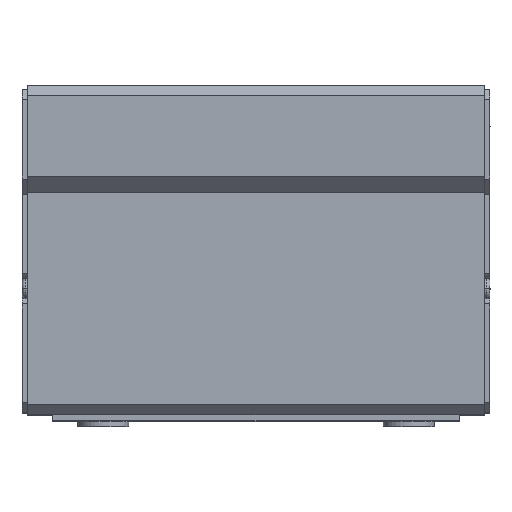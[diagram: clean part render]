
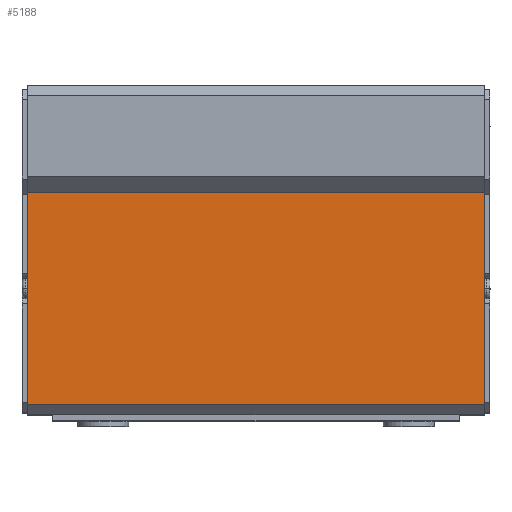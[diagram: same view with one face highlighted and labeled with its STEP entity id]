
A CAD part, top view. The second image highlights one B-rep face of the part: STEP entity #5188.
In plain terms, the highlighted planar face has unit normal (0, 0, 1).
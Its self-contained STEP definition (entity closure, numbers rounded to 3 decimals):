
#37 = EDGE_CURVE ( 'NONE', #302, #2241, #7198, .T. ) ;
#149 = FACE_OUTER_BOUND ( 'NONE', #8230, .T. ) ;
#174 = VERTEX_POINT ( 'NONE', #2021 ) ;
#181 = VECTOR ( 'NONE', #4665, 1000. ) ;
#302 = VERTEX_POINT ( 'NONE', #7795 ) ;
#631 = DIRECTION ( 'NONE',  ( -1., 0., 0. ) ) ;
#810 = CARTESIAN_POINT ( 'NONE',  ( 22.5, 9.5, 21. ) ) ;
#855 = CARTESIAN_POINT ( 'NONE',  ( -22.5, -11.4, 21. ) ) ;
#1211 = ORIENTED_EDGE ( 'NONE', *, *, #3708, .T. ) ;
#1215 = CARTESIAN_POINT ( 'NONE',  ( -22.5, 9.5, 21. ) ) ;
#1257 = LINE ( 'NONE', #4661, #8632 ) ;
#1492 = CARTESIAN_POINT ( 'NONE',  ( 22.5, -11.4, 21. ) ) ;
#2021 = CARTESIAN_POINT ( 'NONE',  ( 22.5, -11.4, 21. ) ) ;
#2241 = VERTEX_POINT ( 'NONE', #4500 ) ;
#2837 = LINE ( 'NONE', #1492, #3521 ) ;
#3521 = VECTOR ( 'NONE', #7148, 1000. ) ;
#3528 = VECTOR ( 'NONE', #8285, 1000. ) ;
#3708 = EDGE_CURVE ( 'NONE', #2241, #6974, #8896, .T. ) ;
#4473 = EDGE_CURVE ( 'NONE', #174, #6974, #2837, .T. ) ;
#4500 = CARTESIAN_POINT ( 'NONE',  ( -22.5, 9.5, 21. ) ) ;
#4661 = CARTESIAN_POINT ( 'NONE',  ( 22.5, 9.5, 21. ) ) ;
#4665 = DIRECTION ( 'NONE',  ( -1., 0., 0. ) ) ;
#5120 = AXIS2_PLACEMENT_3D ( 'NONE', #810, #5657, #631 ) ;
#5188 = ADVANCED_FACE ( 'NONE', ( #149 ), #6325, .F. ) ;
#5657 = DIRECTION ( 'NONE',  ( 0., 0., -1. ) ) ;
#6325 = PLANE ( 'NONE',  #5120 ) ;
#6524 = ORIENTED_EDGE ( 'NONE', *, *, #37, .T. ) ;
#6974 = VERTEX_POINT ( 'NONE', #855 ) ;
#7148 = DIRECTION ( 'NONE',  ( -1., 0., 0. ) ) ;
#7198 = LINE ( 'NONE', #7473, #181 ) ;
#7473 = CARTESIAN_POINT ( 'NONE',  ( 22.5, 9.5, 21. ) ) ;
#7795 = CARTESIAN_POINT ( 'NONE',  ( 22.5, 9.5, 21. ) ) ;
#8117 = ORIENTED_EDGE ( 'NONE', *, *, #8848, .F. ) ;
#8230 = EDGE_LOOP ( 'NONE', ( #1211, #8656, #8117, #6524 ) ) ;
#8285 = DIRECTION ( 'NONE',  ( 0., -1., 0. ) ) ;
#8632 = VECTOR ( 'NONE', #9028, 1000. ) ;
#8656 = ORIENTED_EDGE ( 'NONE', *, *, #4473, .F. ) ;
#8848 = EDGE_CURVE ( 'NONE', #302, #174, #1257, .T. ) ;
#8896 = LINE ( 'NONE', #1215, #3528 ) ;
#9028 = DIRECTION ( 'NONE',  ( 0., -1., 0. ) ) ;
